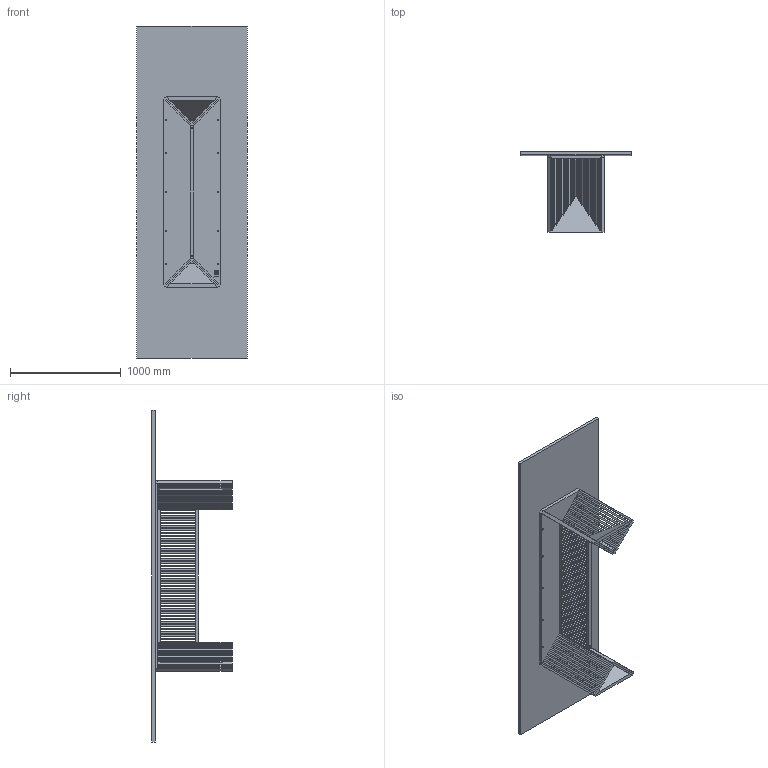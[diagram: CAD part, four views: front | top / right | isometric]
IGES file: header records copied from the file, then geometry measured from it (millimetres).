
Start section: SolidWorks IGES file using analytic representation for surfaces
Global section: file name: C:\Users\SoldaClaudio\Desktop\Maestro\004159.IGS; native system: SolidWorks 2019; preprocessor: SolidWorks 2019; author: SoldaClaudio; date: 201218.085043; units: millimetre
Bounding box: 1000 x 725.14 x 3000 mm (x, y, z)
Surface area: 13784717.4 mm2 (no closed solid volume)
Topology: 0 solids, 0 shells, 1531 faces, 10800 edges, 10800 vertices
Faces by surface type: bspline 1299, revolution 232
